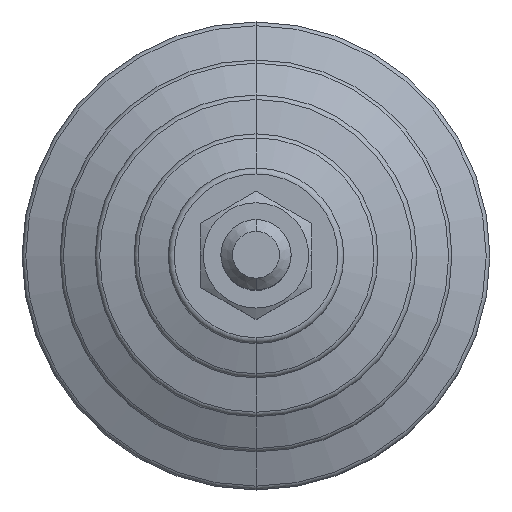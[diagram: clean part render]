
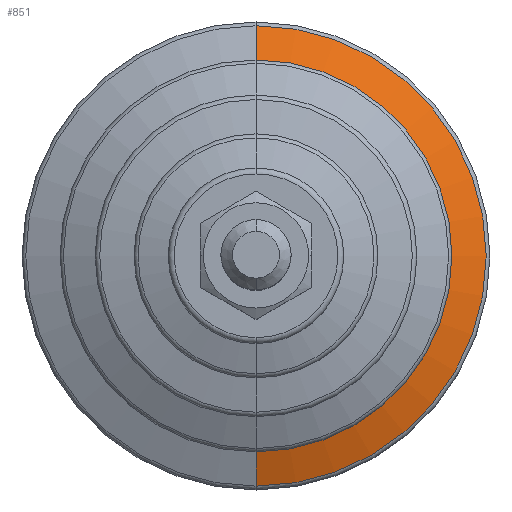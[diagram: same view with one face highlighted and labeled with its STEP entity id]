
A CAD part, top view. The second image highlights one B-rep face of the part: STEP entity #851.
In plain terms, the highlighted conical face has half-angle 68.962 degrees and reference radius 33.5 mm.
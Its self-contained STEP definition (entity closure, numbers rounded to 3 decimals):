
#28 = ORIENTED_EDGE ( 'NONE', *, *, #358, .T. ) ;
#63 = VERTEX_POINT ( 'NONE', #621 ) ;
#75 = EDGE_CURVE ( 'NONE', #1317, #920, #310, .T. ) ;
#257 = ORIENTED_EDGE ( 'NONE', *, *, #75, .F. ) ;
#310 = LINE ( 'NONE', #999, #1673 ) ;
#358 = EDGE_CURVE ( 'NONE', #1317, #63, #772, .T. ) ;
#480 = CARTESIAN_POINT ( 'NONE',  ( 0., 39.359, 9.778 ) ) ;
#501 = DIRECTION ( 'NONE',  ( 0., -0.933, -0.359 ) ) ;
#607 = CARTESIAN_POINT ( 'NONE',  ( 0., 0., 12.032 ) ) ;
#621 = CARTESIAN_POINT ( 'NONE',  ( 0., -33.5, 12.032 ) ) ;
#622 = ORIENTED_EDGE ( 'NONE', *, *, #858, .T. ) ;
#627 = EDGE_LOOP ( 'NONE', ( #28, #622, #1188, #257 ) ) ;
#640 = CARTESIAN_POINT ( 'NONE',  ( 0., 0., 9.778 ) ) ;
#772 = CIRCLE ( 'NONE', #1523, 33.5 ) ;
#804 = CARTESIAN_POINT ( 'NONE',  ( 0., 0., 12.032 ) ) ;
#806 = DIRECTION ( 'NONE',  ( 0., 0., -1. ) ) ;
#812 = DIRECTION ( 'NONE',  ( 0., 1., 0. ) ) ;
#851 = ADVANCED_FACE ( 'NONE', ( #1535 ), #1301, .T. ) ;
#858 = EDGE_CURVE ( 'NONE', #63, #1147, #2046, .T. ) ;
#920 = VERTEX_POINT ( 'NONE', #480 ) ;
#986 = DIRECTION ( 'NONE',  ( 0., 1., 0. ) ) ;
#999 = CARTESIAN_POINT ( 'NONE',  ( 0., 33.5, 12.032 ) ) ;
#1025 = VECTOR ( 'NONE', #501, 1000. ) ;
#1105 = AXIS2_PLACEMENT_3D ( 'NONE', #640, #806, #1525 ) ;
#1135 = DIRECTION ( 'NONE',  ( 0., 0., -1. ) ) ;
#1147 = VERTEX_POINT ( 'NONE', #1785 ) ;
#1181 = CARTESIAN_POINT ( 'NONE',  ( 0., -33.5, 12.032 ) ) ;
#1188 = ORIENTED_EDGE ( 'NONE', *, *, #1911, .F. ) ;
#1301 = CONICAL_SURFACE ( 'NONE', #1485, 33.5, 1.204 ) ;
#1317 = VERTEX_POINT ( 'NONE', #1592 ) ;
#1485 = AXIS2_PLACEMENT_3D ( 'NONE', #804, #1831, #986 ) ;
#1523 = AXIS2_PLACEMENT_3D ( 'NONE', #607, #1135, #812 ) ;
#1525 = DIRECTION ( 'NONE',  ( 0., 1., 0. ) ) ;
#1535 = FACE_OUTER_BOUND ( 'NONE', #627, .T. ) ;
#1592 = CARTESIAN_POINT ( 'NONE',  ( 0., 33.5, 12.032 ) ) ;
#1673 = VECTOR ( 'NONE', #1686, 1000. ) ;
#1686 = DIRECTION ( 'NONE',  ( 0., 0.933, -0.359 ) ) ;
#1785 = CARTESIAN_POINT ( 'NONE',  ( 0., -39.359, 9.778 ) ) ;
#1831 = DIRECTION ( 'NONE',  ( 0., 0., -1. ) ) ;
#1911 = EDGE_CURVE ( 'NONE', #920, #1147, #2223, .T. ) ;
#2046 = LINE ( 'NONE', #1181, #1025 ) ;
#2223 = CIRCLE ( 'NONE', #1105, 39.359 ) ;
